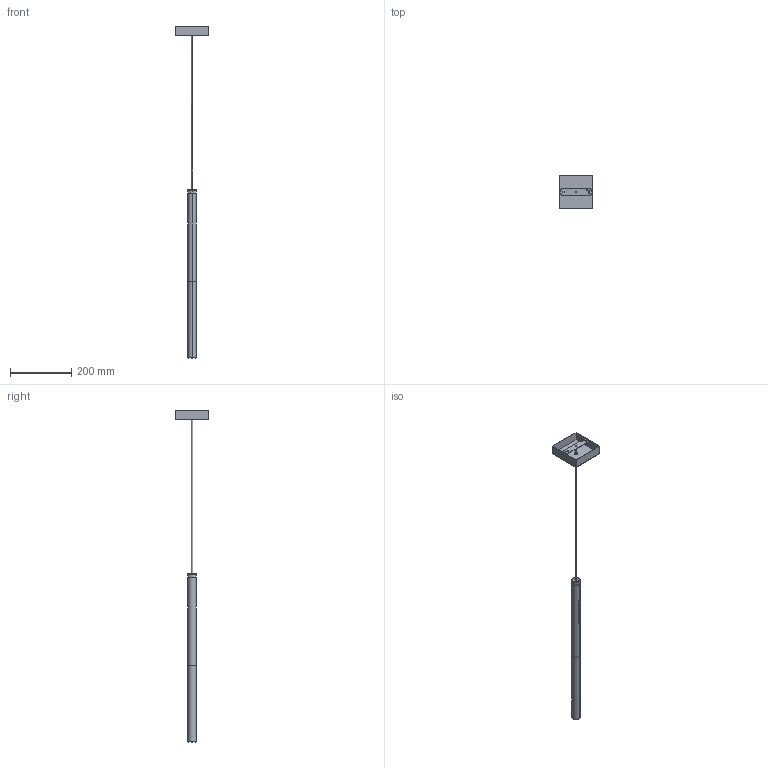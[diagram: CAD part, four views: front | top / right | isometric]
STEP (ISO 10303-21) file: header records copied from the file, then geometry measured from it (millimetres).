
FILE_DESCRIPTION(/* description */ (''),/* implementation_level */ '2;1');
FILE_NAME(/* name */ 'L095__.000',/* time_stamp */ '2024-07-08T12:30:09+02:00',/* author */ (''),/* organization */ (''),/* preprocessor_version */ 'ST-DEVELOPER v16.5',/* originating_system */ '',/* authorisation */ '');
FILE_SCHEMA (('AUTOMOTIVE_DESIGN'));
Length unit declared in the file: millimetre
Products named in the file (7): Document; 3200.0063000.00 (staffa rosone ACC 106x20x11mm sp 2)_3209.0063000.00; Blocco 24; 3400.0080000.00 (cavo FEP+PVC 2x0,75 trasparente)_3401.0080600.00; Blocco 21; Blocco 22; Blocco 23
Assembly tree (6 placements, depth 3):
  Document
    3200.0063000.00 (staffa rosone ACC 106x20x11mm sp 2)_3209.0063000.00
      Blocco 24
    3400.0080000.00 (cavo FEP+PVC 2x0,75 trasparente)_3401.0080600.00
      Blocco 21
      Blocco 22
      Blocco 23
Bounding box: 110 x 110 x 1086.6 mm (x, y, z)
Volume: 144392 mm3; surface area: 164602.2 mm2
Topology: 2 solids, 80 shells, 138 faces, 518 edges, 470 vertices
Faces by surface type: bspline 80, plane 58
Entity records: 7763 total; most frequent: CARTESIAN_POINT 4781, ORIENTED_EDGE 648, EDGE_CURVE 518, VERTEX_POINT 470, B_SPLINE_CURVE_WITH_KNOTS 280, EDGE_LOOP 164, ADVANCED_FACE 138, FACE_OUTER_BOUND 138
